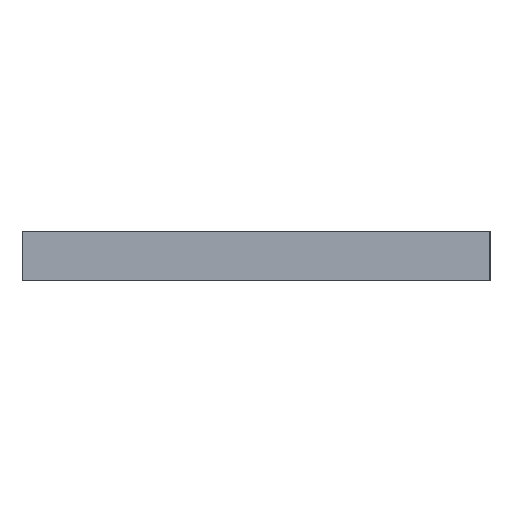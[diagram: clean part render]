
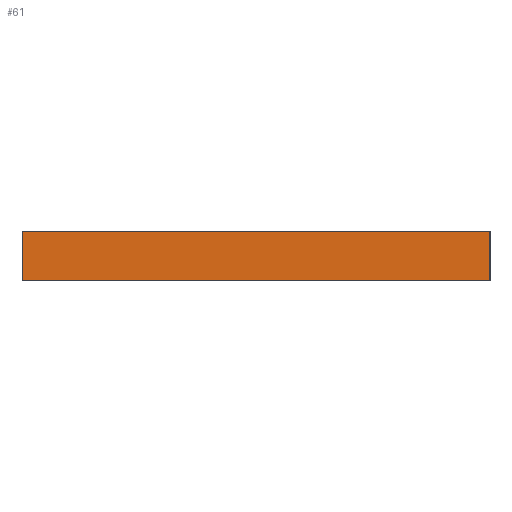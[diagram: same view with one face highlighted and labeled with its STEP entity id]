
A CAD part, left-side view. The second image highlights one B-rep face of the part: STEP entity #61.
In plain terms, the highlighted planar face has unit normal (-1, 0, 0).
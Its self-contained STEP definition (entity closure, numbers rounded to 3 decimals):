
#61=ADVANCED_FACE('',(#79),#535,.T.);
#79=FACE_OUTER_BOUND('',#97,.T.);
#97=EDGE_LOOP('',(#160,#161,#162,#163));
#160=ORIENTED_EDGE('',*,*,#386,.T.);
#161=ORIENTED_EDGE('',*,*,#379,.F.);
#162=ORIENTED_EDGE('',*,*,#387,.T.);
#163=ORIENTED_EDGE('',*,*,#384,.F.);
#223=PCURVE('',#532,#295);
#229=PCURVE('',#534,#301);
#232=PCURVE('',#535,#304);
#233=PCURVE('',#535,#305);
#234=PCURVE('',#535,#306);
#235=PCURVE('',#535,#307);
#236=PCURVE('',#536,#308);
#243=PCURVE('',#537,#315);
#295=DEFINITIONAL_REPRESENTATION('',(#467),#859);
#301=DEFINITIONAL_REPRESENTATION('',(#478),#859);
#304=DEFINITIONAL_REPRESENTATION('',(#483),#859);
#305=DEFINITIONAL_REPRESENTATION('',(#484),#859);
#306=DEFINITIONAL_REPRESENTATION('',(#486),#859);
#307=DEFINITIONAL_REPRESENTATION('',(#487),#859);
#308=DEFINITIONAL_REPRESENTATION('',(#488),#859);
#315=DEFINITIONAL_REPRESENTATION('',(#495),#859);
#343=SURFACE_CURVE('',#466,(#223,#233),.PCURVE_S1.);
#348=SURFACE_CURVE('',#477,(#229,#235),.PCURVE_S1.);
#350=SURFACE_CURVE('',#482,(#232,#236),.PCURVE_S1.);
#351=SURFACE_CURVE('',#485,(#234,#243),.PCURVE_S1.);
#379=EDGE_CURVE('',#515,#512,#343,.T.);
#384=EDGE_CURVE('',#518,#519,#348,.T.);
#386=EDGE_CURVE('',#518,#512,#350,.T.);
#387=EDGE_CURVE('',#515,#519,#351,.T.);
#466=B_SPLINE_CURVE_WITH_KNOTS('',1,(#798,#799),.UNSPECIFIED.,.F.,.F.,(2,
2),(-160.,0.),.UNSPECIFIED.);
#467=B_SPLINE_CURVE_WITH_KNOTS('',1,(#800,#801),.UNSPECIFIED.,.F.,.F.,(2,
2),(-160.,0.),.UNSPECIFIED.);
#477=B_SPLINE_CURVE_WITH_KNOTS('',1,(#820,#821),.UNSPECIFIED.,.F.,.F.,(2,
2),(0.,160.),.UNSPECIFIED.);
#478=B_SPLINE_CURVE_WITH_KNOTS('',1,(#822,#823),.UNSPECIFIED.,.F.,.F.,(2,
2),(0.,160.),.UNSPECIFIED.);
#482=B_SPLINE_CURVE_WITH_KNOTS('',1,(#830,#831),.UNSPECIFIED.,.F.,.F.,(2,
2),(236.,436.),.UNSPECIFIED.);
#483=B_SPLINE_CURVE_WITH_KNOTS('',1,(#832,#833),.UNSPECIFIED.,.F.,.F.,(2,
2),(236.,436.),.UNSPECIFIED.);
#484=B_SPLINE_CURVE_WITH_KNOTS('',1,(#834,#835),.UNSPECIFIED.,.F.,.F.,(2,
2),(-160.,0.),.UNSPECIFIED.);
#485=B_SPLINE_CURVE_WITH_KNOTS('',1,(#836,#837),.UNSPECIFIED.,.F.,.F.,(2,
2),(-436.,-236.),.UNSPECIFIED.);
#486=B_SPLINE_CURVE_WITH_KNOTS('',1,(#838,#839),.UNSPECIFIED.,.F.,.F.,(2,
2),(-436.,-236.),.UNSPECIFIED.);
#487=B_SPLINE_CURVE_WITH_KNOTS('',1,(#840,#841),.UNSPECIFIED.,.F.,.F.,(2,
2),(0.,160.),.UNSPECIFIED.);
#488=B_SPLINE_CURVE_WITH_KNOTS('',1,(#842,#843),.UNSPECIFIED.,.F.,.F.,(2,
2),(236.,436.),.UNSPECIFIED.);
#495=B_SPLINE_CURVE_WITH_KNOTS('',1,(#856,#857),.UNSPECIFIED.,.F.,.F.,(2,
2),(-436.,-236.),.UNSPECIFIED.);
#512=VERTEX_POINT('',#778);
#515=VERTEX_POINT('',#781);
#518=VERTEX_POINT('',#784);
#519=VERTEX_POINT('',#785);
#532=PLANE('',#570);
#534=PLANE('',#572);
#535=PLANE('',#573);
#536=PLANE('',#574);
#537=PLANE('',#575);
#570=AXIS2_PLACEMENT_3D('',#772,#591,$);
#572=AXIS2_PLACEMENT_3D('',#774,#593,$);
#573=AXIS2_PLACEMENT_3D('',#775,#594,$);
#574=AXIS2_PLACEMENT_3D('',#776,#595,$);
#575=AXIS2_PLACEMENT_3D('',#777,#596,$);
#591=DIRECTION('',(0.,-1.,0.));
#593=DIRECTION('',(0.,1.,0.));
#594=DIRECTION('',(-1.,0.,0.));
#595=DIRECTION('',(0.,0.,-1.));
#596=DIRECTION('',(0.,0.,1.));
#772=CARTESIAN_POINT('',(-420.,355.,-180.));
#774=CARTESIAN_POINT('',(-380.,545.,-180.));
#775=CARTESIAN_POINT('',(-420.,545.,-180.));
#776=CARTESIAN_POINT('',(-420.,355.,-180.));
#777=CARTESIAN_POINT('',(-420.,355.,-160.));
#778=CARTESIAN_POINT('',(-420.,355.,-180.));
#781=CARTESIAN_POINT('',(-420.,355.,-160.));
#784=CARTESIAN_POINT('',(-420.,545.,-180.));
#785=CARTESIAN_POINT('',(-420.,545.,-160.));
#798=CARTESIAN_POINT('',(-420.,355.,-160.));
#799=CARTESIAN_POINT('',(-420.,355.,-180.));
#800=CARTESIAN_POINT('',(0.,160.));
#801=CARTESIAN_POINT('',(0.,0.));
#820=CARTESIAN_POINT('',(-420.,545.,-180.));
#821=CARTESIAN_POINT('',(-420.,545.,-160.));
#822=CARTESIAN_POINT('',(236.,0.));
#823=CARTESIAN_POINT('',(236.,160.));
#830=CARTESIAN_POINT('',(-420.,545.,-180.));
#831=CARTESIAN_POINT('',(-420.,355.,-180.));
#832=CARTESIAN_POINT('',(236.,0.));
#833=CARTESIAN_POINT('',(436.,0.));
#834=CARTESIAN_POINT('',(436.,160.));
#835=CARTESIAN_POINT('',(436.,0.));
#836=CARTESIAN_POINT('',(-420.,355.,-160.));
#837=CARTESIAN_POINT('',(-420.,545.,-160.));
#838=CARTESIAN_POINT('',(436.,160.));
#839=CARTESIAN_POINT('',(236.,160.));
#840=CARTESIAN_POINT('',(236.,0.));
#841=CARTESIAN_POINT('',(236.,160.));
#842=CARTESIAN_POINT('',(190.,0.));
#843=CARTESIAN_POINT('',(0.,0.));
#856=CARTESIAN_POINT('',(0.,0.));
#857=CARTESIAN_POINT('',(0.,190.));
#859=(
GEOMETRIC_REPRESENTATION_CONTEXT(2)
PARAMETRIC_REPRESENTATION_CONTEXT()
REPRESENTATION_CONTEXT('pspace','')
);
